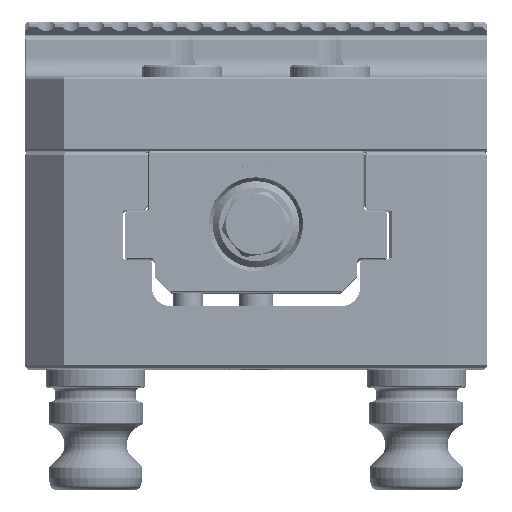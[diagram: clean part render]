
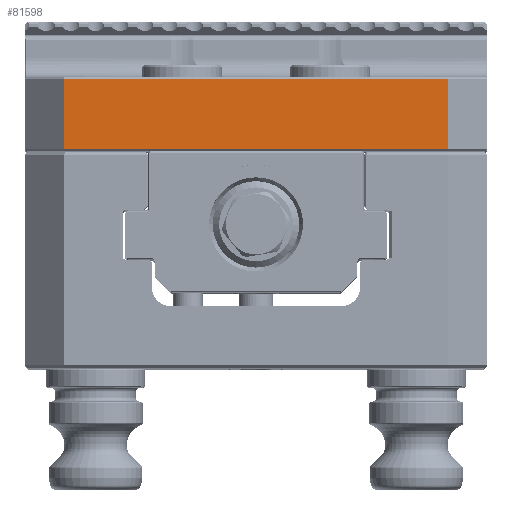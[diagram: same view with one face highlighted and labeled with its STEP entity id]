
A CAD part, top view. The second image highlights one B-rep face of the part: STEP entity #81598.
In plain terms, the highlighted planar face has unit normal (0, 0, 1) as drawn and (-1, 0, 0) by its records, which use the part's own axes.
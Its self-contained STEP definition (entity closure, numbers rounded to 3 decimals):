
#3767 = CARTESIAN_POINT ( 'NONE',  ( -37.254, 12., 37.5 ) ) ;
#4674 = LINE ( 'NONE', #3767, #85044 ) ;
#10467 = EDGE_CURVE ( 'NONE', #117284, #61516, #4674, .T. ) ;
#24455 = LINE ( 'NONE', #48213, #134978 ) ;
#25016 = DIRECTION ( 'NONE',  ( 0., 0., 1. ) ) ;
#33422 = ORIENTED_EDGE ( 'NONE', *, *, #118968, .T. ) ;
#36925 = CARTESIAN_POINT ( 'NONE',  ( -37.254, 12., -31.15 ) ) ;
#45671 = DIRECTION ( 'NONE',  ( 1., 0., 0. ) ) ;
#46951 = CARTESIAN_POINT ( 'NONE',  ( -37.254, 0.635, -31.15 ) ) ;
#48213 = CARTESIAN_POINT ( 'NONE',  ( -37.254, 0., -31.15 ) ) ;
#48769 = EDGE_LOOP ( 'NONE', ( #33422, #116274, #59596, #122630 ) ) ;
#55008 = CARTESIAN_POINT ( 'NONE',  ( -37.254, 0.635, 31.15 ) ) ;
#57881 = CARTESIAN_POINT ( 'NONE',  ( -37.254, 12.254, 31.15 ) ) ;
#59596 = ORIENTED_EDGE ( 'NONE', *, *, #127372, .T. ) ;
#61516 = VERTEX_POINT ( 'NONE', #36925 ) ;
#65452 = PLANE ( 'NONE',  #85758 ) ;
#67889 = VECTOR ( 'NONE', #91601, 1000. ) ;
#68081 = VERTEX_POINT ( 'NONE', #98288 ) ;
#68896 = DIRECTION ( 'NONE',  ( 0., -1., 0. ) ) ;
#73727 = LINE ( 'NONE', #55008, #88755 ) ;
#74666 = EDGE_CURVE ( 'NONE', #75967, #68081, #73727, .T. ) ;
#75863 = CARTESIAN_POINT ( 'NONE',  ( -37.254, 12., 31.15 ) ) ;
#75967 = VERTEX_POINT ( 'NONE', #46951 ) ;
#79201 = DIRECTION ( 'NONE',  ( 0., 0., -1. ) ) ;
#81598 = ADVANCED_FACE ( 'NONE', ( #138123 ), #65452, .F. ) ;
#85044 = VECTOR ( 'NONE', #79201, 1000. ) ;
#85758 = AXIS2_PLACEMENT_3D ( 'NONE', #98240, #45671, #98672 ) ;
#88755 = VECTOR ( 'NONE', #25016, 1000. ) ;
#91601 = DIRECTION ( 'NONE',  ( 0., 1., 0. ) ) ;
#97974 = LINE ( 'NONE', #57881, #67889 ) ;
#98240 = CARTESIAN_POINT ( 'NONE',  ( -37.254, 0., 37.5 ) ) ;
#98288 = CARTESIAN_POINT ( 'NONE',  ( -37.254, 0.635, 31.15 ) ) ;
#98672 = DIRECTION ( 'NONE',  ( 0., 0., -1. ) ) ;
#116274 = ORIENTED_EDGE ( 'NONE', *, *, #74666, .T. ) ;
#117284 = VERTEX_POINT ( 'NONE', #75863 ) ;
#118968 = EDGE_CURVE ( 'NONE', #61516, #75967, #24455, .T. ) ;
#122630 = ORIENTED_EDGE ( 'NONE', *, *, #10467, .T. ) ;
#127372 = EDGE_CURVE ( 'NONE', #68081, #117284, #97974, .T. ) ;
#134978 = VECTOR ( 'NONE', #68896, 1000. ) ;
#138123 = FACE_OUTER_BOUND ( 'NONE', #48769, .T. ) ;
